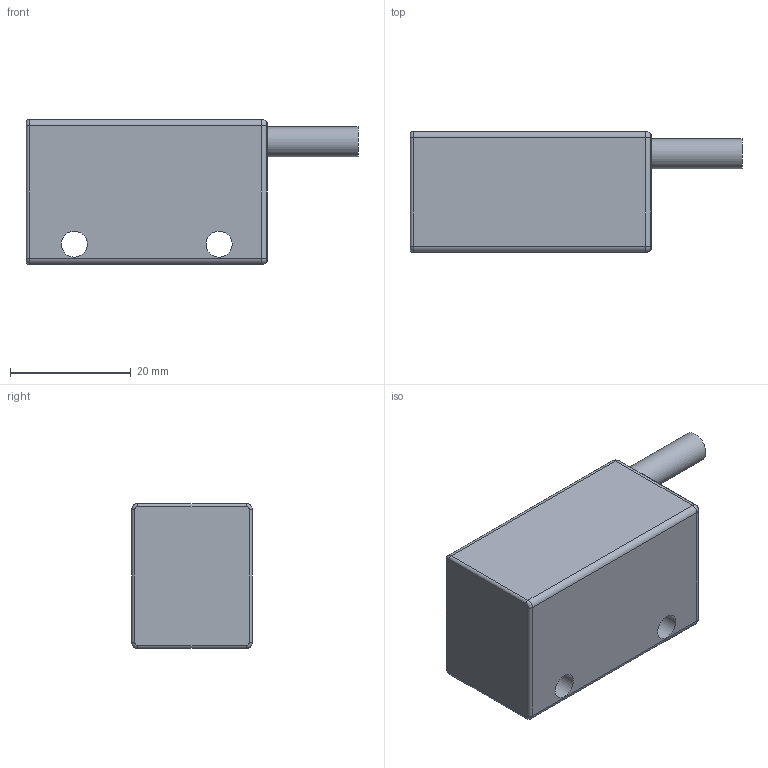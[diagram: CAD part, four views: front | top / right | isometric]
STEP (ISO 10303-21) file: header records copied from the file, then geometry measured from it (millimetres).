
FILE_DESCRIPTION(/* description */ (''),/* implementation_level */ '2;1');
FILE_NAME(/* name */ 'GP Gehuse verguss.step',/* time_stamp */ '2024-10-08T14:57:26+02:00',/* author */ (''),/* organization */ (''),/* preprocessor_version */ 'ST-DEVELOPER v20',/* originating_system */ 'Autodesk Translation Framework v13.20.0.188',/* authorisation */ '');
FILE_SCHEMA (('AUTOMOTIVE_DESIGN { 1 0 10303 214 3 1 1 }'));
Length unit declared in the file: millimetre
Products named in the file (2): GP Gehäuse 20x24; GP Gehäuse vergossen
Assembly tree (1 placements, depth 2):
  GP Gehäuse 20x24
    GP Gehäuse vergossen
Bounding box: 55 x 20 x 24 mm (x, y, z)
Volume: 18858.3 mm3; surface area: 5080.6 mm2
Topology: 1 solids, 1 shells, 38 faces, 81 edges, 46 vertices
Faces by surface type: cylinder 19, plane 11, sphere 4, bspline 4
Full cylindrical faces by diameter (mm): 4.3 x2, 5 x1
Entity records: 1092 total; most frequent: CARTESIAN_POINT 200, DIRECTION 197, ORIENTED_EDGE 162, EDGE_CURVE 81, AXIS2_PLACEMENT_3D 79, VERTEX_POINT 46, EDGE_LOOP 43, CIRCLE 42
